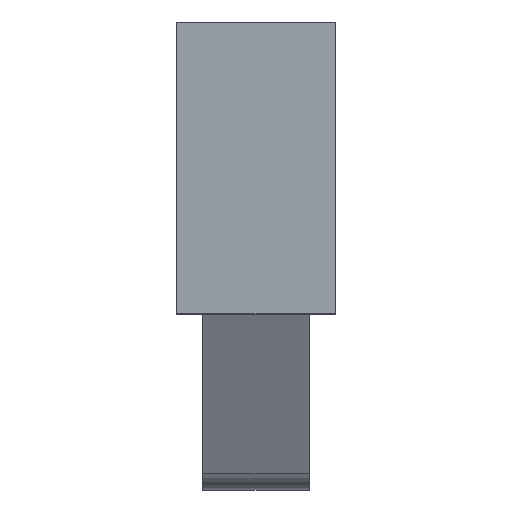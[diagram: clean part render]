
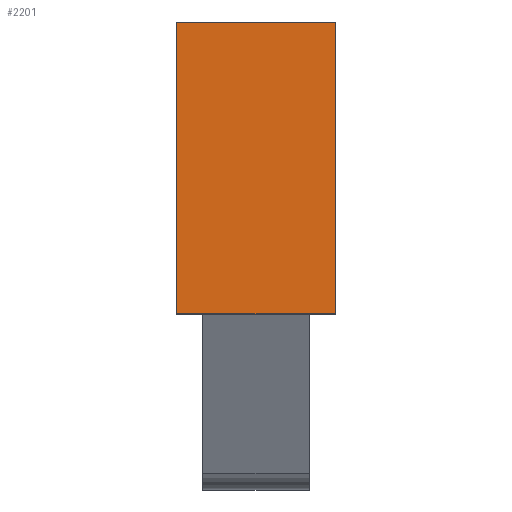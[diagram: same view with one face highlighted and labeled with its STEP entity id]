
A CAD part, front view. The second image highlights one B-rep face of the part: STEP entity #2201.
In plain terms, the highlighted planar face has unit normal (0, -1, 0).
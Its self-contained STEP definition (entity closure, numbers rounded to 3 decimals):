
#784=DIRECTION('',(1.,0.,0.));
#785=VECTOR('',#784,29.8);
#786=CARTESIAN_POINT('',(-14.9,-43.5,-54.9));
#787=LINE('',#786,#785);
#788=DIRECTION('',(0.,0.,-1.));
#789=VECTOR('',#788,54.8);
#790=CARTESIAN_POINT('',(-14.9,-43.5,-0.1));
#791=LINE('',#790,#789);
#792=DIRECTION('',(-1.,0.,0.));
#793=VECTOR('',#792,29.8);
#794=CARTESIAN_POINT('',(14.9,-43.5,-0.1));
#795=LINE('',#794,#793);
#796=DIRECTION('',(0.,0.,1.));
#797=VECTOR('',#796,54.8);
#798=CARTESIAN_POINT('',(14.9,-43.5,-54.9));
#799=LINE('',#798,#797);
#884=CARTESIAN_POINT('',(-14.9,-43.5,-54.9));
#885=CARTESIAN_POINT('',(14.9,-43.5,-54.9));
#886=VERTEX_POINT('',#884);
#887=VERTEX_POINT('',#885);
#888=CARTESIAN_POINT('',(14.9,-43.5,-0.1));
#889=VERTEX_POINT('',#888);
#890=CARTESIAN_POINT('',(-14.9,-43.5,-0.1));
#891=VERTEX_POINT('',#890);
#2190=CARTESIAN_POINT('',(0.,-43.5,0.));
#2191=DIRECTION('',(0.,-1.,0.));
#2192=DIRECTION('',(1.,0.,0.));
#2193=AXIS2_PLACEMENT_3D('',#2190,#2191,#2192);
#2194=PLANE('',#2193);
#2195=ORIENTED_EDGE('',*,*,#2142,.F.);
#2196=ORIENTED_EDGE('',*,*,#2157,.F.);
#2197=ORIENTED_EDGE('',*,*,#2171,.F.);
#2198=ORIENTED_EDGE('',*,*,#2184,.F.);
#2199=EDGE_LOOP('',(#2195,#2196,#2197,#2198));
#2200=FACE_OUTER_BOUND('',#2199,.F.);
#2201=ADVANCED_FACE('',(#2200),#2194,.T.);
#2142=EDGE_CURVE('',#886,#887,#787,.T.);
#2157=EDGE_CURVE('',#891,#886,#791,.T.);
#2171=EDGE_CURVE('',#889,#891,#795,.T.);
#2184=EDGE_CURVE('',#887,#889,#799,.T.);
